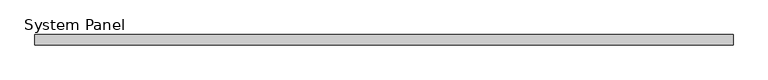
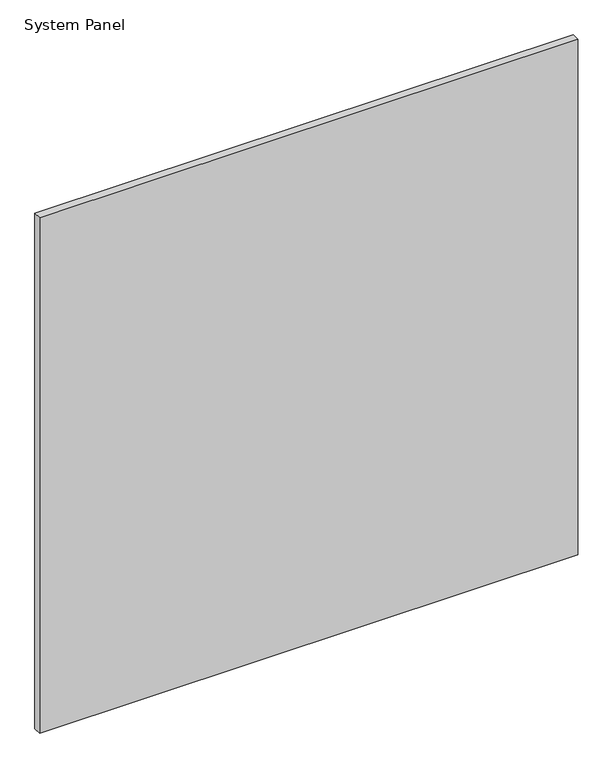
"""IFC4 building model written with IfcOpenShell, lengths in millimetres: plate geometry, System Panel : Panel_Glazed_Generic Showcase_30mm."""

from ifc_helpers import new_model, si_unit, origin, origin_with_axes, place, context, project, spatial, polyline, outline, extrude, source, transform, mapped, element, save


def system_panel_fa37fecd(model_context):
    return source(origin(), model_context, "Body", "SweptSolid", [
        extrude(outline(polyline([(1012.5, -30.0), (-1012.5, -30.0), (-1012.5, 0.0), (1012.5, 0.0), (1012.5, -30.0)])), origin_with_axes(), (0.0, 0.0, 1.0), 2050.0),
    ])


if __name__ == "__main__":
    model = new_model("IFC4")
    model_context = context("Model", 3, world=origin())
    ifc_project = project(units=[si_unit("LENGTHUNIT", "METRE", prefix="MILLI")], contexts=[model_context])
    site = spatial("IfcSite", under=ifc_project)
    building = spatial("IfcBuilding", under=site)
    placement = place(None, origin())
    system_panel_shape = system_panel_fa37fecd(model_context)
    element("IfcPlate", 1, ObjectType="System Panel : Panel_Glazed_Generic Showcase_30mm", at=placement, inside=building, context=model_context, shape_type="MappedRepresentation", body=[
        mapped(system_panel_shape, transform((0.0, 0.0, 0.0), x_axis=(1.0, 0.0, 0.0), y_axis=(0.0, 1.0, 0.0), z_axis=(0.0, 0.0, 1.0))),
    ])
    save(model, "model.ifc")
